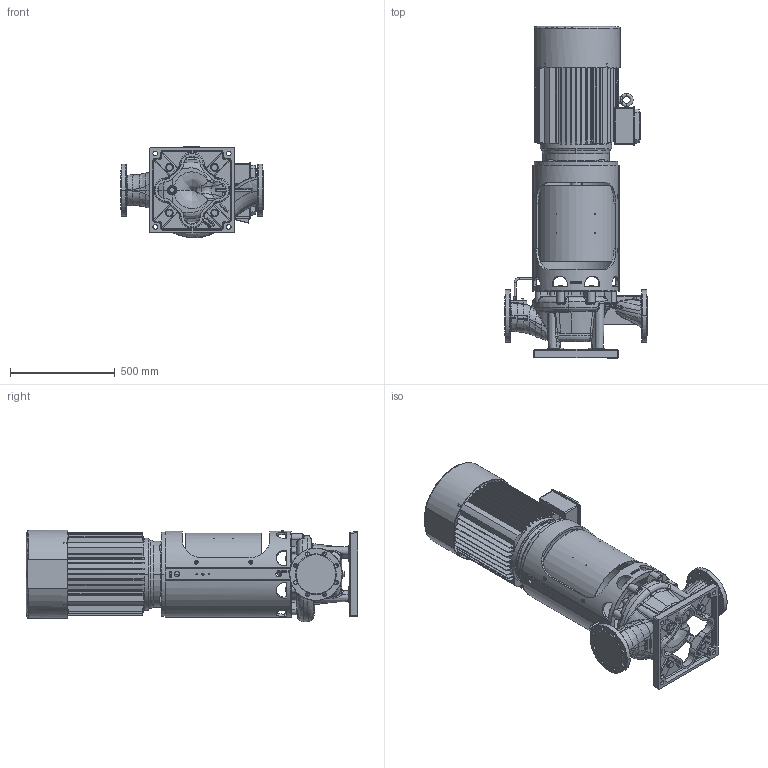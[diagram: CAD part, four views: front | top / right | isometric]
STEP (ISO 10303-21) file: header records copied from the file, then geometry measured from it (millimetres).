
FILE_DESCRIPTION((''),'2;1');
FILE_NAME('NSL125-265_A14_MOTOR_200_L_ASM_ASM','2019-08-21T',('BRHE'),(''),'PRO/ENGINEER BY PARAMETRIC TECHNOLOGY CORPORATION, 2017170','PRO/ENGINEER BY PARAMETRIC TECHNOLOGY CORPORATION, 2017170','');
FILE_SCHEMA(('CONFIG_CONTROL_DESIGN'));
Length unit declared in the file: millimetre
Products named in the file (45): PRT0003_1; PRT0004_1; PRT0005_1; PRT0006_1; PRT0007_1; PRT0008_1; PRT0009_1; PRT0010_1; PRT0011_1; PRT0012_1; PRT0013_1; PRT0014_1; PRT0015_1; PRT0016_1; PRT0017_1; PRT0018_1; PRT0019_1; PRT0020_1; PRT0021_1; PRT0022_1; PRT0023_1; PRT0024_1; PRT0025_1; PRT0026_1; PRT0027_1; PRT0028_1; PRT0029_1; PRT0030_1; PRT0031_1; PRT0032_1; PRT0033_1; PRT0034_1; PRT0035_1; PRT0036_1; PRT0037_1; PRT0038_1; PRT0039_1; PRT0040_1; PRT0041_1; PRT0042_1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
Assembly tree (44 placements, depth 3):
  NSL125-265_A14_MOTOR_200_L_ASM_ASM
    NSL125-265_A14_MOTOR_200_L_ASM__ASM
      PRT0003_1
      PRT0004_1
      PRT0005_1
      PRT0006_1
      PRT0007_1
      PRT0008_1
      PRT0009_1
      PRT0010_1
      PRT0011_1
      PRT0012_1
      PRT0013_1
      PRT0014_1
      PRT0015_1
      PRT0016_1
      PRT0017_1
      PRT0018_1
      PRT0019_1
      PRT0020_1
      PRT0021_1
      PRT0022_1
      PRT0023_1
      PRT0024_1
      PRT0025_1
      PRT0026_1
      PRT0027_1
      PRT0028_1
      PRT0029_1
      PRT0030_1
      PRT0031_1
      PRT0032_1
      PRT0033_1
      PRT0034_1
      PRT0035_1
      PRT0036_1
      PRT0037_1
      PRT0038_1
      PRT0039_1
      PRT0040_1
      PRT0041_1
      PRT0042_1
      PRT0043_1
      PRT0044_1
      PRT0045_1
Bounding box: 680 x 1580.65 x 436.69 mm (x, y, z)
Volume: 99063114.9 mm3; surface area: 5716320.2 mm2
Topology: 43 solids, 46 shells, 3785 faces, 10246 edges, 6606 vertices
Faces by surface type: plane 1330, cylinder 868, bspline 561, cone 519, extrusion 268, torus 203, sphere 36
Entity records: 187738 total; most frequent: CARTESIAN_POINT 97863, ORIENTED_EDGE 20332, DIRECTION 15998, EDGE_CURVE 10166, VERTEX_POINT 6606, AXIS2_PLACEMENT_3D 5953, EDGE_LOOP 4154, VECTOR 4092
